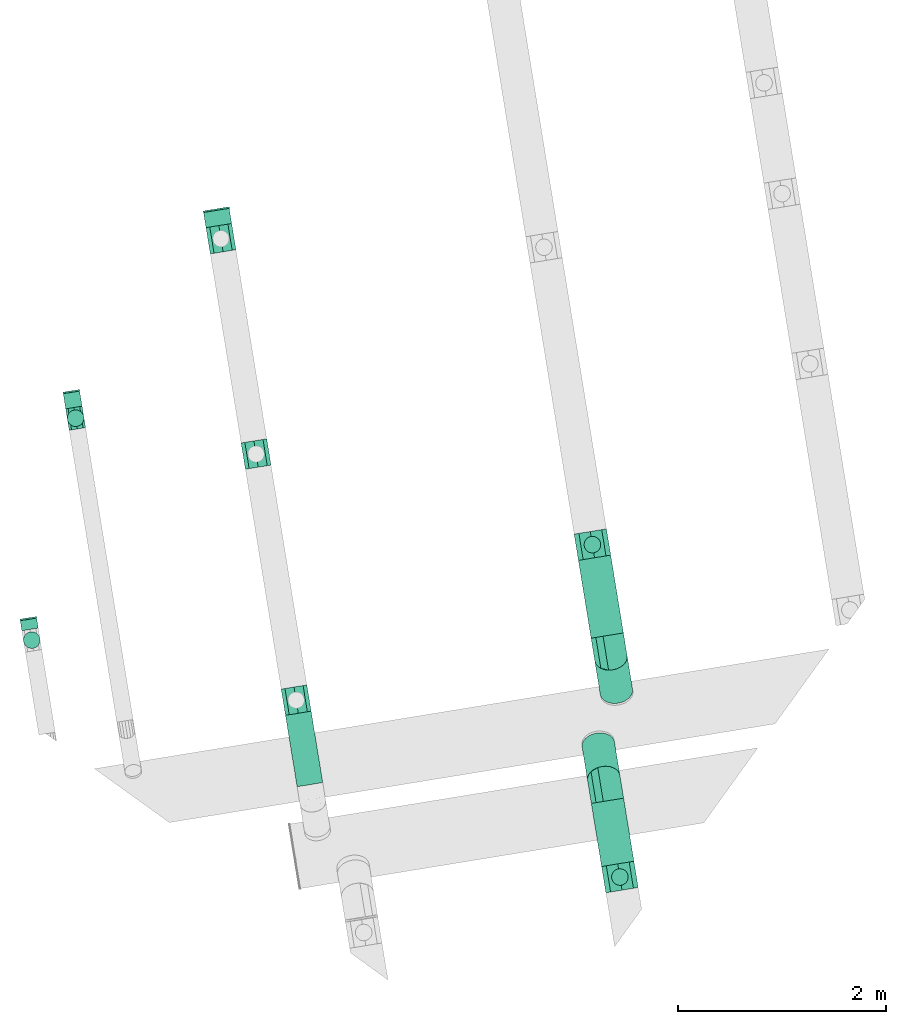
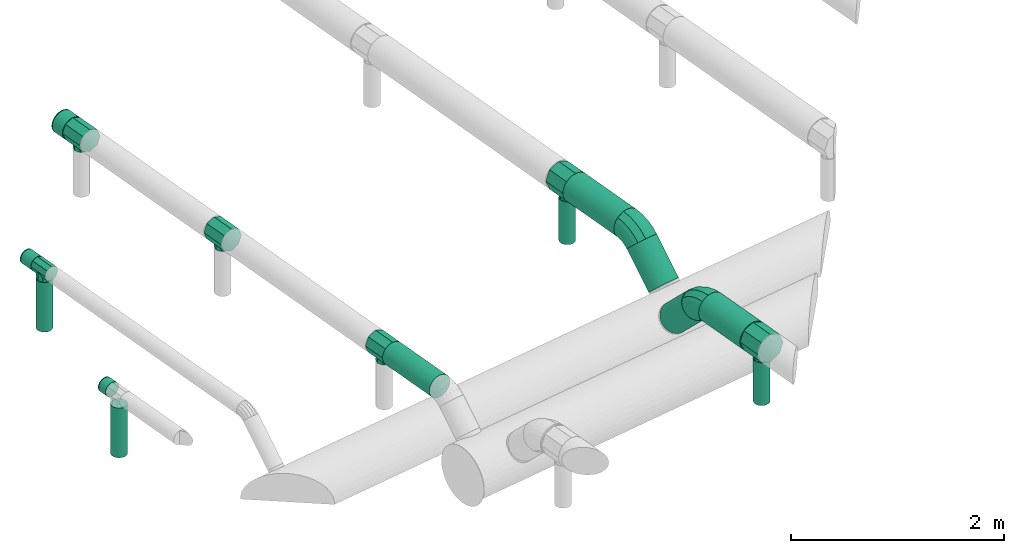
# One storey, part 2 of 15: 12 flow segments, 11 flow fittings.
"""IFC2X3 building model written with IfcOpenShell, lengths in millimetres."""

from ifc_helpers import new_model, entity, si_unit, converted_unit, derived_unit, direction, frame, frame_2d, origin, origin_with_axes, origin_2d_with_axis, place, context, subcontext, project, spatial, circle, extrude, faceted_brep, source, transform, mapped, material, type_object, element, save


model = new_model("IFC2X3")

# Units and contexts
model_context = context("Model", 3, precision=0.01, world=origin(), true_north=direction((6.12323399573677e-17, 1.0)))
plan_context = context("Plan", 3, precision=1e-05, world=origin_with_axes())
body_context = subcontext(model_context, "Body", "Model", "MODEL_VIEW")
ifc_project = project(units=[converted_unit("PLANEANGLEUNIT", "DEGREE", entity("IfcPositiveLengthMeasure", 0.0174532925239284), si_unit("PLANEANGLEUNIT", "RADIAN"), dimensions=[0, 0, 0, 0, 0, 0, 0]), si_unit("AREAUNIT", "SQUARE_METRE"), si_unit("LENGTHUNIT", "METRE", prefix="MILLI"), si_unit("MASSUNIT", "GRAM", prefix="KILO"), si_unit("POWERUNIT", "WATT"), si_unit("PRESSUREUNIT", "PASCAL", prefix="KILO"), si_unit("FORCEUNIT", "NEWTON", prefix="KILO"), si_unit("ELECTRICVOLTAGEUNIT", "VOLT"), si_unit("ELECTRICCURRENTUNIT", "AMPERE"), si_unit("THERMODYNAMICTEMPERATUREUNIT", "DEGREE_CELSIUS"), si_unit("TIMEUNIT", "SECOND"), si_unit("VOLUMEUNIT", "CUBIC_METRE"), derived_unit("LINEARVELOCITYUNIT", [(si_unit("LENGTHUNIT", "METRE"), 1), (si_unit("TIMEUNIT", "SECOND"), -1)]), derived_unit("VOLUMETRICFLOWRATEUNIT", [(si_unit("VOLUMEUNIT", "CUBIC_METRE"), 1), (si_unit("TIMEUNIT", "SECOND"), -1)]), derived_unit("THERMALTRANSMITTANCEUNIT", [(si_unit("POWERUNIT", "WATT"), 1), (si_unit("THERMODYNAMICTEMPERATUREUNIT", "KELVIN"), -1), (si_unit("AREAUNIT", "SQUARE_METRE"), -1)]), derived_unit("SOUNDPRESSUREUNIT", [(si_unit("PRESSUREUNIT", "PASCAL"), 1)])], contexts=[model_context, plan_context])

# Site, building, storey
site_placement = place(None, frame((5.09380697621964e-08, 5.80416781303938e-08, 0.0), z_axis=(0.0, 0.0, 1.0), x_axis=(-0.160806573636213, 0.986985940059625, 0.0)))
site = spatial("IfcSite", under=ifc_project, at=site_placement, Name="Default", CompositionType="ELEMENT")
building_placement = place(site_placement, frame((0.0, 0.0, 0.0), z_axis=(0.0, 0.0, 1.0), x_axis=(1.0, -2.77555756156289e-17, 0.0)))
building = spatial("IfcBuilding", under=site, at=building_placement, Name="Bygning (endres i Project Information)", CompositionType="ELEMENT")
storey_placement = place(building_placement, frame((0.0, 0.0, 51360.0000000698), z_axis=(0.0, 0.0, 1.0), x_axis=(1.0, -2.77555756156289e-17, 0.0)))
storey = spatial("IfcBuildingStorey", under=building, at=storey_placement, Name="H01-Nivå D+0,36", CompositionType="ELEMENT", Elevation=51360.0000000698)

# Flow fittings
ifc_material_1 = material(Name="DF_Material1")
duct_fitting_type_1 = type_object("IfcDuctFittingType", Name="Lindab TCPU:TCPU", PredefinedType="NOTDEFINED", material=ifc_material_1)
shared_shape_1 = source(origin(), body_context, "Body", "Brep", [
    faceted_brep([(104.500000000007, -56.56854258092, 56.5685425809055), (63.1966424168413, -63.1966424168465, 32.5870493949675), (104.500000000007, -80.0000001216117, 0.0), (80.0000001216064, -80.0000001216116, 0.0), (46.3932847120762, -46.3932847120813, 65.1740987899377), (104.500000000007, 0.0, 80.0000001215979), (0.0, 0.0, 80.0000001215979), (0.0, 0.0, -80.0000001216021), (104.500000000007, 0.0, -80.0000001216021), (56.680726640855, -56.6807266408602, -56.4561356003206), (104.500000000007, -56.5685425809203, -56.568542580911), (80.0000001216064, -105.0, 0.0), (56.5685425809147, -105.0, 56.5685425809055), (0.0, -105.0, 80.0000001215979), (-56.5685425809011, -105.0, 56.5685425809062), (-80.0000001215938, -105.0, 0.0), (-56.568542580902, -105.0, -56.5685425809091), (0.0, -105.0, -80.0000001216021), (56.568542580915, -105.0, -56.568542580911), (-56.6807266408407, -56.6807266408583, 56.4561356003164), (-80.0000001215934, -80.0000001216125, 0.0), (-63.1966424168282, -63.1966424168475, -32.5870493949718), (-46.3932847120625, -46.3932847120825, -65.1740987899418), (-104.499999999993, -80.000000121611, 0.0), (-104.499999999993, -56.5685425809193, 56.5685425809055), (-104.499999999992, 0.0, 80.0000001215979), (-104.499999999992, 56.5685425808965, 56.5685425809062), (-104.499999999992, 80.0000001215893, 0.0), (-104.499999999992, 56.5685425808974, -56.5685425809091), (-104.499999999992, 0.0, -80.0000001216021), (-104.499999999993, -56.5685425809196, -56.568542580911), (104.500000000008, 56.5685425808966, -56.5685425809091), (104.500000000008, 80.000000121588, 0.0), (104.500000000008, 56.5685425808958, 56.5685425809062)], [[[0, 1, 2]], [[2, 1, 3]], [[4, 5, 6]], [[5, 4, 0]], [[0, 4, 1]], [[7, 8, 9]], [[9, 8, 10]], [[10, 3, 9]], [[3, 10, 2]], [[11, 12, 13, 14, 15, 16, 17, 18]], [[13, 19, 14]], [[19, 13, 6]], [[20, 15, 14]], [[20, 14, 19]], [[15, 20, 16]], [[16, 20, 21, 22]], [[22, 7, 17]], [[22, 17, 16]], [[17, 9, 18]], [[9, 17, 7]], [[3, 11, 18]], [[3, 18, 9]], [[11, 3, 12]], [[12, 3, 1, 4]], [[4, 6, 13]], [[4, 13, 12]], [[23, 24, 25, 26, 27, 28, 29, 30]], [[0, 2, 10, 8, 31, 32, 33, 5]], [[25, 6, 5, 33, 26]], [[33, 32, 27, 26]], [[32, 31, 28, 27]], [[31, 8, 7, 29, 28]], [[7, 22, 29]], [[30, 22, 21]], [[29, 22, 30]], [[21, 23, 30]], [[23, 21, 20]], [[24, 23, 20]], [[24, 20, 19]], [[19, 25, 24]], [[25, 19, 6]]]),
])
flow_fitting_1_placement = place(storey_placement, frame((998832.564992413, -338465.550404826, 3804.40000000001), z_axis=(0.0, -1.0, 0.0), x_axis=(0.999999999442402, 0.0, 3.33945577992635e-05)))
element("IfcFlowFitting", 1, at=flow_fitting_1_placement, inside=storey, type_object=duct_fitting_type_1, material=ifc_material_1, Name="Lindab TCPU:TCPU", ObjectType="Lindab TCPU:TCPU", context=body_context, shape_type="MappedRepresentation", body=[
    mapped(shared_shape_1, transform((0.0, 0.0, 0.0), scale=1.0)),
])
duct_fitting_type_2 = type_object("IfcDuctFittingType", Name="Lindab ESU:ESU", PredefinedType="NOTDEFINED", material=ifc_material_1)
shared_shape_2 = source(origin(), body_context, "Body", "SweptSolid", [
    extrude(circle(Radius=80.0000001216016, at=frame_2d((-9.34946944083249e-14, -4.9652979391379e-13), x_axis=(1.0, 0.0))), frame((0.0, 0.0, 0.0), z_axis=(1.0, 0.0, 0.0), x_axis=(0.0, 1.0, 0.0)), (0.0, 0.0, 1.0), 10.0000000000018),
])
for number, where, z_axis, x_axis in (
    (2, (996997.204870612, -337705.59332722, 3804.4), (0.0, 0.0, 1.0), (1.0, -2.77555756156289e-17, 0.0)),
    (3, (999087.064992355, -338465.550404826, 3804.4), (0.0, 0.0, 1.0), (1.0, -2.77555756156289e-17, 0.0)),
):
    element("IfcFlowFitting", number, at=place(storey_placement, frame(where, z_axis=z_axis, x_axis=x_axis)), inside=storey, type_object=duct_fitting_type_2, material=ifc_material_1, Name="Lindab ESU:ESU", ObjectType="Lindab ESU:ESU", context=body_context, shape_type="MappedRepresentation", body=[
        mapped(shared_shape_2, transform((0.0, 0.0, 0.0), scale=1.0)),
    ])
duct_fitting_type_3 = type_object("IfcDuctFittingType", Name="Lindab TCPU:TCPU", PredefinedType="NOTDEFINED", material=ifc_material_1)
shared_shape_3 = source(origin(), body_context, "Body", "Brep", [
    faceted_brep([(56.5685425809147, 182.0, 56.5685425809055), (80.0000001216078, 182.0, 0.0), (56.568542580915, 182.0, -56.568542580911), (0.0, 182.0, -80.0000001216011), (-56.568542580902, 182.0, -56.5685425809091), (-80.0000001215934, 182.0, 0.0), (-56.5685425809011, 182.0, 56.5685425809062), (0.0, 182.0, 80.0000001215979), (-51.4669231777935, 145.103736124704, 61.2466802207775), (0.0, 135.66963571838, 80.0000001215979), (-80.0000001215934, 157.500000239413, 0.0), (-61.1597016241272, 148.817872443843, -51.5702522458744), (0.0, 135.669635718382, -80.0000001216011), (51.4669231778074, 145.103736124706, -61.2466802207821), (80.0000001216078, 157.500000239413, 0.0), (61.1652823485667, 148.820166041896, 51.5636330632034), (-128.0, 0.0, -157.500000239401), (-128.0, -111.369318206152, -111.369318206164), (-128.0, -157.500000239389, 0.0), (-128.0, -111.369318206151, 111.369318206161), (-128.0, 0.0, 157.500000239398), (-128.0, 111.369318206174, 111.36931820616), (-128.0, 134.434659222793, 55.6846591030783), (-128.0, 157.500000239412, 0.0), (-128.0, 134.434659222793, -55.6846591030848), (-128.0, 111.369318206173, -111.369318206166), (128.0, 157.500000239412, 0.0), (128.0, 134.434659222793, 55.6846591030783), (128.0, 111.369318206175, 111.36931820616), (128.0, 0.0, 157.500000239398), (128.0, -111.36931820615, 111.369318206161), (128.0, -157.500000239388, 0.0), (128.0, -111.369318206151, -111.369318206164), (128.0, 0.0, -157.500000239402), (128.0, 111.369318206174, -111.369318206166), (128.0, 134.434659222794, -55.6846591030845)], [[[0, 1, 2, 3, 4, 5, 6, 7]], [[7, 8, 9]], [[6, 8, 7]], [[5, 10, 6]], [[8, 6, 10]], [[4, 10, 5]], [[11, 10, 4]], [[4, 3, 11]], [[12, 11, 3]], [[3, 13, 12]], [[2, 13, 3]], [[1, 14, 2]], [[13, 2, 14]], [[0, 14, 1]], [[15, 14, 0]], [[0, 7, 15]], [[9, 15, 7]], [[16, 17, 18, 19, 20, 21, 22, 23, 24, 25]], [[26, 27, 28, 29, 30, 31, 32, 33, 34, 35]], [[30, 29, 20, 19]], [[18, 31, 30, 19]], [[18, 17, 32, 31]], [[16, 33, 32, 17]], [[25, 34, 33, 16]], [[12, 34, 25]], [[11, 12, 25]], [[12, 13, 34]], [[13, 14, 35]], [[26, 35, 14]], [[24, 23, 11, 25]], [[23, 10, 11]], [[35, 34, 13]], [[15, 26, 14]], [[8, 10, 22]], [[22, 21, 8]], [[15, 28, 27, 26]], [[28, 9, 21]], [[29, 28, 21, 20]], [[8, 21, 9]], [[10, 23, 22]], [[28, 15, 9]]]),
])
for number, where, z_axis, x_axis in (
    (4, (993631.859892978, -342925.651094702, 3804.40000000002), (-2.77555756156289e-17, -1.0, 0.0), (-1.0, 2.77555756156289e-17, 0.0)),
    (5, (996831.859892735, -343179.24363092, 3804.40000000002), (-2.77555756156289e-17, -1.0, 0.0), (-1.0, 2.77555756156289e-17, 0.0)),
):
    element("IfcFlowFitting", number, at=place(storey_placement, frame(where, z_axis=z_axis, x_axis=x_axis)), inside=storey, type_object=duct_fitting_type_3, material=ifc_material_1, Name="Lindab TCPU:TCPU", ObjectType="Lindab TCPU:TCPU", context=body_context, shape_type="MappedRepresentation", body=[
        mapped(shared_shape_3, transform((0.0, 0.0, 0.0), scale=1.0)),
    ])
duct_fitting_type_4 = type_object("IfcDuctFittingType", Name="Lindab ESU:ESU", PredefinedType="NOTDEFINED", material=ifc_material_1)
shared_shape_4 = source(origin(), body_context, "Body", "SweptSolid", [
    extrude(circle(Radius=125.000000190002, at=frame_2d((-2.83842431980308e-13, -6.44578034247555e-13), x_axis=(1.0, 0.0))), frame((0.0, 0.0, 0.0), z_axis=(1.0, 0.0, 0.0), x_axis=(0.0, 1.0, 0.0)), (0.0, 0.0, 1.0), 10.0000000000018),
])
flow_fitting_2_placement = place(storey_placement, frame((1000591.18735498, -340124.100723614, 3804.29489743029), z_axis=(0.0, 0.0, 1.0), x_axis=(1.0, -2.77555756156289e-17, 0.0)))
element("IfcFlowFitting", 6, at=flow_fitting_2_placement, inside=storey, type_object=duct_fitting_type_4, material=ifc_material_1, Name="Lindab ESU:ESU", ObjectType="Lindab ESU:ESU", context=body_context, shape_type="MappedRepresentation", body=[
    mapped(shared_shape_4, transform((0.0, 0.0, 0.0), scale=1.0)),
])
duct_fitting_type_5 = type_object("IfcDuctFittingType", Name="Lindab TCPU:TCPU", PredefinedType="NOTDEFINED", material=ifc_material_1)
shared_shape_5 = source(origin(), body_context, "Body", "Brep", [
    faceted_brep([(80.0000001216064, -150.0, 0.0), (56.5685425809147, -150.0, 56.5685425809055), (0.0, -150.0, 80.0000001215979), (-56.5685425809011, -150.0, 56.5685425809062), (-80.0000001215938, -150.0, 0.0), (-56.568542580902, -150.0, -56.5685425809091), (0.0, -150.0, -80.0000001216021), (56.568542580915, -150.0, -56.568542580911), (-61.0300177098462, -113.79658645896, 51.7236595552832), (0.0, -96.0468637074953, 80.0000001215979), (-80.0000001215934, -125.000000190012, 0.0), (-51.4182786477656, -108.944203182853, -61.287524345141), (0.0, -96.0468637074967, -80.0000001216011), (61.0300177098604, -113.796586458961, -51.7236595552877), (80.0000001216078, -125.000000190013, 0.0), (51.4246556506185, -108.947213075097, 61.2821736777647), (-128.0, -125.000000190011, 0.0), (-128.0, -106.694173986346, 44.1941738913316), (-128.0, -88.3883477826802, 88.388347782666), (-128.0, 0.0, 125.000000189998), (-128.0, 88.388347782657, 88.3883477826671), (-128.0, 125.000000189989, 0.0), (-128.0, 88.3883477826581, -88.3883477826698), (-128.0, 0.0, -125.000000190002), (-128.0, -88.3883477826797, -88.3883477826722), (-128.0, -106.694173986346, -44.1941738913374), (128.0, 0.0, -125.000000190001), (128.0, 88.3883477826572, -88.3883477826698), (128.0, 125.000000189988, 0.0), (128.0, 88.3883477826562, 88.3883477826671), (128.0, 0.0, 125.000000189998), (128.0, -88.388347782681, 88.388347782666), (128.0, -106.694173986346, 44.1941738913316), (128.0, -125.000000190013, 0.0), (128.0, -106.694173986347, -44.1941738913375), (128.0, -88.3883477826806, -88.3883477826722)], [[[0, 1, 2, 3, 4, 5, 6, 7]], [[2, 8, 3]], [[8, 2, 9]], [[10, 4, 3]], [[10, 3, 8]], [[10, 5, 4]], [[5, 10, 11]], [[11, 12, 6]], [[11, 6, 5]], [[6, 13, 7]], [[13, 6, 12]], [[14, 0, 7]], [[14, 7, 13]], [[14, 1, 0]], [[1, 14, 15]], [[15, 9, 2]], [[15, 2, 1]], [[16, 17, 18, 19, 20, 21, 22, 23, 24, 25]], [[26, 27, 28, 29, 30, 31, 32, 33, 34, 35]], [[19, 30, 29, 20]], [[29, 28, 21, 20]], [[28, 27, 22, 21]], [[27, 26, 23, 22]], [[26, 35, 12]], [[23, 12, 24]], [[12, 23, 26]], [[24, 12, 11]], [[35, 13, 12]], [[34, 14, 13]], [[14, 34, 33]], [[10, 16, 25]], [[13, 35, 34]], [[11, 25, 24]], [[10, 25, 11]], [[14, 32, 15]], [[8, 17, 10]], [[10, 17, 16]], [[33, 32, 14]], [[9, 15, 31]], [[31, 15, 32]], [[9, 31, 30]], [[9, 19, 18]], [[19, 9, 30]], [[18, 8, 9]], [[8, 18, 17]]]),
])
for number, where, z_axis, x_axis in (
    (7, (998213.187354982, -340124.100723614, 3804.29489743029), (-2.77555756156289e-17, -1.0, 0.0), (1.0, -2.77555756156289e-17, 0.0)),
    (8, (1000313.18735498, -340124.100723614, 3804.29489743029), (-2.77555756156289e-17, -1.0, 0.0), (1.0, -2.77555756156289e-17, 0.0)),
    (9, (995813.187354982, -340124.100723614, 3804.29489743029), (-2.77555756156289e-17, -1.0, 0.0), (1.0, -2.77555756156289e-17, 0.0)),
):
    element("IfcFlowFitting", number, at=place(storey_placement, frame(where, z_axis=z_axis, x_axis=x_axis)), inside=storey, type_object=duct_fitting_type_5, material=ifc_material_1, Name="Lindab TCPU:TCPU", ObjectType="Lindab TCPU:TCPU", context=body_context, shape_type="MappedRepresentation", body=[
        mapped(shared_shape_5, transform((0.0, 0.0, 0.0), scale=1.0)),
    ])
ifc_material_2 = material(Name="3601.001 Avtrekk")
duct_fitting_type_6 = type_object("IfcDuctFittingType", Name="magicirc_elbow_full_radius_NOR:magicirc_elbow_full_radius_NOR", PredefinedType="NOTDEFINED", material=ifc_material_2)
shared_shape_6 = source(origin(), body_context, "Body", "Brep", [
    faceted_brep([(-38.2970950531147, -148.421045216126, 0.0), (-39.3440828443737, -143.157482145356, 40.7639996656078), (-130.477272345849, -152.133317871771, 40.7639996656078), (-130.477272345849, -157.5000002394, 0.0), (-42.4136957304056, -127.72549605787, 78.7500001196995), (-130.477272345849, -136.399001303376, 78.7500001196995), (-47.2967446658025, -103.176751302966, 111.369318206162), (-130.477272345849, -111.369318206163, 111.369318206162), (-53.6604579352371, -71.1842042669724, 136.399001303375), (-130.477272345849, -78.7500001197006, 136.399001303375), (-61.0711589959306, -33.928094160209, 152.133317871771), (-130.477272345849, -40.763999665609, 152.133317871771), (-69.0238208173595, 6.05263668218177, 157.5000002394), (-130.477272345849, 0.0, 157.5000002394), (-76.9764826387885, 46.0333675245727, 152.133317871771), (-130.477272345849, 40.7639996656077, 152.133317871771), (-84.3871836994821, 83.2894776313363, 136.399001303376), (-130.477272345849, 78.7500001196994, 136.399001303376), (-90.7508969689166, 115.28202466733, 111.369318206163), (-130.477272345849, 111.369318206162, 111.369318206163), (-98.7035587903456, 155.262755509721, 40.7639996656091), (-130.47727234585, 152.133317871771, 40.7639996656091), (-99.7505465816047, 160.526318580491, 0.0), (-130.47727234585, 157.5000002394, 0.0), (-98.7035587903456, 155.262755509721, -40.7639996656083), (-130.47727234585, 152.133317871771, -40.7639996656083), (-95.6339459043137, 139.830769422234, -78.7500001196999), (-130.47727234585, 136.399001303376, -78.7500001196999), (-90.7508969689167, 115.28202466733, -111.369318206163), (-130.477272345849, 111.369318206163, -111.369318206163), (-84.3871836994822, 83.289477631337, -136.399001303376), (-130.477272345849, 78.7500001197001, -136.399001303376), (-76.9764826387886, 46.0333675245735, -152.133317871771), (-130.477272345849, 40.7639996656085, -152.133317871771), (-69.0238208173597, 6.0526366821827, -157.5000002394), (-130.477272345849, 0.0, -157.5000002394), (-61.0711589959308, -33.9280941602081, -152.133317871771), (-130.477272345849, -40.763999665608, -152.133317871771), (-53.6604579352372, -71.1842042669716, -136.399001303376), (-130.477272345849, -78.7500001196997, -136.399001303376), (-47.2967446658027, -103.176751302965, -111.369318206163), (-130.477272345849, -111.369318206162, -111.369318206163), (-39.3440828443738, -143.157482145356, -40.7639996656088), (-130.477272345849, -152.133317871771, -40.7639996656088), (50.340649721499, -121.533079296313, 0.0), (48.2869092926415, -116.574911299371, 40.7639996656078), (42.2656470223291, -102.038298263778, 78.7500001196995), (32.6872019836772, -78.9138863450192, 111.369318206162), (20.2043293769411, -48.7775660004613, 136.399001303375), (5.66771634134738, -13.6830776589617, 152.133317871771), (-9.93199096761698, 23.9779472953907, 157.5000002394), (-25.5316982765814, 61.6389722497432, 152.133317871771), (-40.0683113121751, 96.733460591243, 136.399001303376), (-52.5511839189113, 126.869780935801, 111.369318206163), (-68.1508912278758, 164.530805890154, 40.7639996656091), (-70.2046316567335, 169.488973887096, 0.0), (-68.1508912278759, 164.530805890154, -40.7639996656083), (-62.1296289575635, 149.99419285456, -78.7500001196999), (-52.5511839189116, 126.869780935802, -111.369318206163), (-40.0683113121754, 96.7334605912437, -136.399001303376), (-25.5316982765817, 61.638972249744, -152.133317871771), (-9.93199096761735, 23.9779472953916, -157.5000002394), (5.66771634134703, -13.6830776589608, -152.133317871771), (20.2043293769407, -48.7775660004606, -136.399001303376), (32.6872019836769, -78.9138863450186, -111.369318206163), (48.2869092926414, -116.574911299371, -40.7639996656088), (132.029663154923, -77.8693919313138, 0.0), (129.048094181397, -73.4071586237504, 40.7639996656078), (120.30657625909, -60.3245525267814, 78.7500001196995), (106.400829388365, -39.5131316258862, 111.369318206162), (88.2785072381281, -12.3911598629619, 136.399001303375), (67.1746161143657, 19.1930452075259, 152.133317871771), (44.5273513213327, 53.0870722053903, 157.5000002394), (21.8800865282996, 86.9810992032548, 152.133317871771), (0.776195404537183, 118.565304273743, 136.399001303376), (-17.3461267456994, 145.687276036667, 111.369318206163), (-39.9933915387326, 179.581303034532, 40.7639996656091), (-42.9749605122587, 184.043536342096, 0.0), (-39.9933915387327, 179.581303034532, -40.7639996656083), (-31.2518736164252, 166.498696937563, -78.7500001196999), (-17.3461267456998, 145.687276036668, -111.369318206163), (0.776195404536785, 118.565304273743, -136.399001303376), (21.8800865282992, 86.9810992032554, -152.133317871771), (44.5273513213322, 53.0870722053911, -157.5000002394), (67.1746161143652, 19.1930452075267, -152.133317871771), (88.2785072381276, -12.3911598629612, -136.399001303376), (106.400829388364, -39.5131316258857, -111.369318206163), (129.048094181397, -73.4071586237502, -40.7639996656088), (203.630682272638, -19.1079541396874, 0.0), (199.835864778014, -15.3131366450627, 40.7639996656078), (188.710022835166, -4.18729470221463, 78.7500001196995), (171.011364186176, 13.5113639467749, 111.369318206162), (147.946023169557, 36.5767049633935, 136.399001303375), (121.085864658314, 63.4368634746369, 152.133317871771), (92.2613640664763, 92.2613640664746, 157.5000002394), (63.4368634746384, 121.085864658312, 152.133317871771), (36.5767049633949, 147.946023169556, 136.399001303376), (13.5113639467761, 171.011364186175, 111.369318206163), (-15.3131366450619, 199.835864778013, 40.7639996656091), (-19.1079541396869, 203.630682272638, 0.0), (-15.3131366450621, 199.835864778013, -40.7639996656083), (-4.18729470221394, 188.710022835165, -78.7500001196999), (13.5113639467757, 171.011364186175, -111.369318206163), (36.5767049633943, 147.946023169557, -136.399001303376), (63.4368634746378, 121.085864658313, -152.133317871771), (92.2613640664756, 92.2613640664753, -157.5000002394), (121.085864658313, 63.4368634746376, -152.133317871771), (147.946023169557, 36.576704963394, -136.399001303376), (171.011364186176, 13.5113639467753, -111.369318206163), (199.835864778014, -15.3131366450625, -40.7639996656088)], [[[0, 1, 2, 3]], [[1, 4, 5, 2]], [[4, 6, 7, 5]], [[6, 8, 9, 7]], [[8, 10, 11, 9]], [[10, 12, 13, 11]], [[12, 14, 15, 13]], [[14, 16, 17, 15]], [[16, 18, 19, 17]], [[18, 20, 21, 19]], [[20, 22, 23, 21]], [[22, 24, 25, 23]], [[24, 26, 27, 25]], [[26, 28, 29, 27]], [[28, 30, 31, 29]], [[30, 32, 33, 31]], [[32, 34, 35, 33]], [[34, 36, 37, 35]], [[36, 38, 39, 37]], [[38, 40, 41, 39]], [[40, 42, 43, 41]], [[42, 0, 3, 43]], [[44, 45, 1, 0]], [[45, 46, 4, 1]], [[46, 47, 6, 4]], [[47, 48, 8, 6]], [[48, 49, 10, 8]], [[49, 50, 12, 10]], [[50, 51, 14, 12]], [[51, 52, 16, 14]], [[52, 53, 18, 16]], [[53, 54, 20, 18]], [[54, 55, 22, 20]], [[55, 56, 24, 22]], [[56, 57, 26, 24]], [[57, 58, 28, 26]], [[58, 59, 30, 28]], [[59, 60, 32, 30]], [[60, 61, 34, 32]], [[61, 62, 36, 34]], [[62, 63, 38, 36]], [[63, 64, 40, 38]], [[64, 65, 42, 40]], [[65, 44, 0, 42]], [[66, 67, 45, 44]], [[67, 68, 46, 45]], [[68, 69, 47, 46]], [[69, 70, 48, 47]], [[70, 71, 49, 48]], [[71, 72, 50, 49]], [[72, 73, 51, 50]], [[73, 74, 52, 51]], [[74, 75, 53, 52]], [[75, 76, 54, 53]], [[76, 77, 55, 54]], [[77, 78, 56, 55]], [[78, 79, 57, 56]], [[79, 80, 58, 57]], [[80, 81, 59, 58]], [[81, 82, 60, 59]], [[82, 83, 61, 60]], [[83, 84, 62, 61]], [[84, 85, 63, 62]], [[85, 86, 64, 63]], [[86, 87, 65, 64]], [[87, 66, 44, 65]], [[88, 89, 67, 66]], [[89, 90, 68, 67]], [[90, 91, 69, 68]], [[91, 92, 70, 69]], [[92, 93, 71, 70]], [[93, 94, 72, 71]], [[94, 95, 73, 72]], [[95, 96, 74, 73]], [[96, 97, 75, 74]], [[97, 98, 76, 75]], [[98, 99, 77, 76]], [[99, 100, 78, 77]], [[100, 101, 79, 78]], [[101, 102, 80, 79]], [[102, 103, 81, 80]], [[103, 104, 82, 81]], [[104, 105, 83, 82]], [[105, 106, 84, 83]], [[106, 107, 85, 84]], [[107, 108, 86, 85]], [[108, 109, 87, 86]], [[109, 88, 66, 87]], [[3, 2, 5, 7, 9, 11, 13, 15, 17, 19, 21, 23, 25, 27, 29, 31, 33, 35, 37, 39, 41, 43]], [[109, 108, 107, 106, 105, 104, 103, 102, 101, 100, 99, 98, 97, 96, 95, 94, 93, 92, 91, 90, 89, 88]]]),
])
for number, where, z_axis, x_axis, name in (
    (10, (995814.681658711, -343179.24363092, 3804.40000000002), (-2.77555756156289e-17, -1.0, 0.0), (-1.0, 2.77555756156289e-17, 0.0), "magicirc_elbow_full_radius_NOR:magicirc_elbow_full_radius_NOR"),
    (11, (994505.881698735, -342925.651094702, 3804.39999999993), (9.81307786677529e-18, -1.0, -9.8130778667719e-18), (-0.70710678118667, -1.38777878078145e-17, 0.707106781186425), "magicirc_elbow_full_radius_NOR:magicirc_elbow_full_radius_NOR"),
):
    element("IfcFlowFitting", number, at=place(storey_placement, frame(where, z_axis=z_axis, x_axis=x_axis)), inside=storey, type_object=duct_fitting_type_6, material=ifc_material_2, Name=name, ObjectType="magicirc_elbow_full_radius_NOR:magicirc_elbow_full_radius_NOR", context=body_context, shape_type="MappedRepresentation", body=[
        mapped(shared_shape_6, transform((0.0, 0.0, 0.0), scale=1.0)),
    ])

# Flow segments
ifc_material_3 = material(Name="3601.001 Tilluft")
duct_segment_type = type_object("IfcDuctSegmentType", Name="Round Duct:Sirkulær kanal", PredefinedType="NOTDEFINED", material=ifc_material_3)
flow_segment_1_placement = place(storey_placement, frame((0.0, 0.0, 0.0), z_axis=(0.0, 0.0, 1.0), x_axis=(1.0, -2.77555756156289e-17, 0.0)))
element("IfcFlowSegment", 12, at=flow_segment_1_placement, inside=storey, type_object=duct_segment_type, Name="Round Duct:Sirkulær kanal", ObjectType="Round Duct:Sirkulær kanal", context=body_context, shape_type="SweptSolid", body=[
    extrude(circle(Radius=80.0000001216, at=frame_2d((-3.80314397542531e-30, 3.73929876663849e-17), x_axis=(1.0, 0.0))), frame((996792.705919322, -337705.59332722, 3130.00000020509), z_axis=(4.31643304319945e-06, 0.0, 1.0), x_axis=(0.0, -1.0, 0.0)), (0.0, 0.0, 1.0), 569.399999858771),
])
flow_segment_2_placement = place(storey_placement, frame((0.0, 0.0, 0.0), z_axis=(0.0, 0.0, 1.0), x_axis=(1.0, -2.77555756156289e-17, 0.0)))
element("IfcFlowSegment", 13, at=flow_segment_2_placement, inside=storey, type_object=duct_segment_type, Name="Round Duct:Sirkulær kanal", ObjectType="Round Duct:Sirkulær kanal", context=body_context, shape_type="SweptSolid", body=[
    extrude(circle(Radius=80.0000001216, at=frame_2d((0.0, -4.83701156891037e-15), x_axis=(1.0, 0.0))), frame((996897.204870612, -337705.59332722, 3804.40348973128), z_axis=(1.0, 0.0, -3.48973127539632e-05), x_axis=(0.0, -1.0, 0.0)), (0.0, 0.0, 1.0), 100.000000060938),
])
flow_segment_3_placement = place(storey_placement, frame((0.0, 0.0, 0.0), z_axis=(0.0, 0.0, 1.0), x_axis=(1.0, -2.77555756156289e-17, 0.0)))
element("IfcFlowSegment", 14, at=flow_segment_3_placement, inside=storey, type_object=duct_segment_type, Name="Round Duct:Sirkulær kanal", ObjectType="Round Duct:Sirkulær kanal", context=body_context, shape_type="SweptSolid", body=[
    extrude(circle(Radius=80.0000001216, at=origin_2d_with_axis()), frame((998832.564766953, -338465.550404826, 3130.00000021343), z_axis=(6.55407205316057e-06, 0.0, 1.0), x_axis=(0.0, -1.0, 0.0)), (0.0, 0.0, 1.0), 569.399999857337),
])
flow_segment_4_placement = place(storey_placement, frame((0.0, 0.0, 0.0), z_axis=(0.0, 0.0, 1.0), x_axis=(1.0, -2.77555756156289e-17, 0.0)))
element("IfcFlowSegment", 15, at=flow_segment_4_placement, inside=storey, type_object=duct_segment_type, Name="Round Duct:Sirkulær kanal", ObjectType="Round Duct:Sirkulær kanal", context=body_context, shape_type="SweptSolid", body=[
    extrude(circle(Radius=80.0000001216, at=origin_2d_with_axis()), frame((998937.064992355, -338465.550404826, 3804.40348973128), z_axis=(1.0, 0.0, -2.32648751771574e-05), x_axis=(0.0, -1.0, 0.0)), (0.0, 0.0, 1.0), 150.000000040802),
])
flow_segment_5_placement = place(storey_placement, frame((0.0, 0.0, 0.0), z_axis=(0.0, 0.0, 1.0), x_axis=(1.0, -2.77555756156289e-17, 0.0)))
element("IfcFlowSegment", 16, at=flow_segment_5_placement, inside=storey, type_object=duct_segment_type, Name="Round Duct:Sirkulær kanal", ObjectType="Round Duct:Sirkulær kanal", context=body_context, shape_type="SweptSolid", body=[
    extrude(circle(Radius=157.5000002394, at=origin_2d_with_axis()), frame((993759.859892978, -342925.651094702, 3804.4), z_axis=(1.0, 0.0, 0.0), x_axis=(0.0, -1.0, 0.0)), (0.0, 0.0, 1.0), 615.544533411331),
])
flow_segment_6_placement = place(storey_placement, frame((0.0, 0.0, 0.0), z_axis=(0.0, 0.0, 1.0), x_axis=(1.0, -2.77555756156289e-17, 0.0)))
element("IfcFlowSegment", 17, at=flow_segment_6_placement, inside=storey, type_object=duct_segment_type, Name="Round Duct:Sirkulær kanal", ObjectType="Round Duct:Sirkulær kanal", context=body_context, shape_type="SweptSolid", body=[
    extrude(circle(Radius=80.0000001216, at=origin_2d_with_axis()), frame((993631.859892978, -342925.651094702, 3130.00000020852), z_axis=(0.0, 0.0, 1.0), x_axis=(0.0, 1.0, 0.0)), (0.0, 0.0, 1.0), 492.399999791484),
])
flow_segment_7_placement = place(storey_placement, frame((0.0, 0.0, 0.0), z_axis=(0.0, 0.0, 1.0), x_axis=(1.0, -2.77555756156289e-17, 0.0)))
element("IfcFlowSegment", 18, at=flow_segment_7_placement, inside=storey, type_object=duct_segment_type, Name="Round Duct:Sirkulær kanal", ObjectType="Round Duct:Sirkulær kanal", context=body_context, shape_type="SweptSolid", body=[
    extrude(circle(Radius=80.0000001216, at=origin_2d_with_axis()), frame((996831.859892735, -343179.24363092, 3130.00000020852), z_axis=(0.0, 0.0, 1.0), x_axis=(0.0, 1.0, 0.0)), (0.0, 0.0, 1.0), 492.399999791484),
])
flow_segment_8_placement = place(storey_placement, frame((0.0, 0.0, 0.0), z_axis=(0.0, 0.0, 1.0), x_axis=(1.0, -2.77555756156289e-17, 0.0)))
element("IfcFlowSegment", 19, at=flow_segment_8_placement, inside=storey, type_object=duct_segment_type, Name="Round Duct:Sirkulær kanal", ObjectType="Round Duct:Sirkulær kanal", context=body_context, shape_type="SweptSolid", body=[
    extrude(circle(Radius=157.5000002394, at=origin_2d_with_axis()), frame((995945.158931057, -343179.24363092, 3804.4), z_axis=(1.0, 0.0, 0.0), x_axis=(0.0, 1.0, 0.0)), (0.0, 0.0, 1.0), 758.700961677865),
])
flow_segment_9_placement = place(storey_placement, frame((0.0, 0.0, 0.0), z_axis=(0.0, 0.0, 1.0), x_axis=(1.0, -2.77555756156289e-17, 0.0)))
element("IfcFlowSegment", 20, at=flow_segment_9_placement, inside=storey, type_object=duct_segment_type, Name="Round Duct:Sirkulær kanal", ObjectType="Round Duct:Sirkulær kanal", context=body_context, shape_type="SweptSolid", body=[
    extrude(circle(Radius=125.00000019, at=origin_2d_with_axis()), frame((1000441.18735498, -340124.100723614, 3804.29489743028), z_axis=(1.0, 0.0, 0.0), x_axis=(0.0, -1.0, 0.0)), (0.0, 0.0, 1.0), 149.999999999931),
])
flow_segment_10_placement = place(storey_placement, frame((0.0, 0.0, 0.0), z_axis=(0.0, 0.0, 1.0), x_axis=(1.0, -2.77555756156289e-17, 0.0)))
element("IfcFlowSegment", 21, at=flow_segment_10_placement, inside=storey, type_object=duct_segment_type, Name="Round Duct:Sirkulær kanal", ObjectType="Round Duct:Sirkulær kanal", context=body_context, shape_type="SweptSolid", body=[
    extrude(circle(Radius=125.00000019, at=origin_2d_with_axis()), frame((994989.020216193, -340124.100723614, 3804.29489743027), z_axis=(1.0, 0.0, 0.0), x_axis=(0.0, 1.0, 0.0)), (0.0, 0.0, 1.0), 696.167138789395),
])
flow_segment_11_placement = place(storey_placement, frame((0.0, 0.0, 0.0), z_axis=(0.0, 0.0, 1.0), x_axis=(1.0, -2.77555756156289e-17, 0.0)))
element("IfcFlowSegment", 22, at=flow_segment_11_placement, inside=storey, type_object=duct_segment_type, Name="Round Duct:Sirkulær kanal", ObjectType="Round Duct:Sirkulær kanal", context=body_context, shape_type="SweptSolid", body=[
    extrude(circle(Radius=157.5000002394, at=frame_2d((-9.17438637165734e-25, 6.12562152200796e-12), x_axis=(1.0, 0.0))), frame((995397.162452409, -343179.24363092, 3386.88079369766), z_axis=(0.707106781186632, 0.0, 0.707106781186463), x_axis=(0.0, -1.0, 0.0)), (0.0, 0.0, 1.0), 459.984051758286),
])
flow_segment_12_placement = place(storey_placement, frame((0.0, 0.0, 0.0), z_axis=(0.0, 0.0, 1.0), x_axis=(1.0, -2.77555756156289e-17, 0.0)))
element("IfcFlowSegment", 23, at=flow_segment_12_placement, inside=storey, type_object=duct_segment_type, Name="Round Duct:Sirkulær kanal", ObjectType="Round Duct:Sirkulær kanal", context=body_context, shape_type="SweptSolid", body=[
    extrude(circle(Radius=157.5000002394, at=frame_2d((0.0, -6.12562152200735e-12), x_axis=(1.0, 0.0))), frame((994923.40090696, -342925.651094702, 3386.88079177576), z_axis=(-0.707106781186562, 0.0, 0.707106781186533), x_axis=(0.0, 1.0, 0.0)), (0.0, 0.0, 1.0), 459.984054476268),
])

save(model, "model.ifc")
